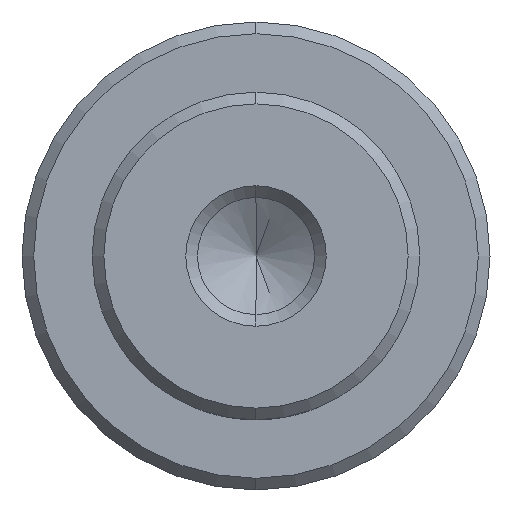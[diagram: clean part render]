
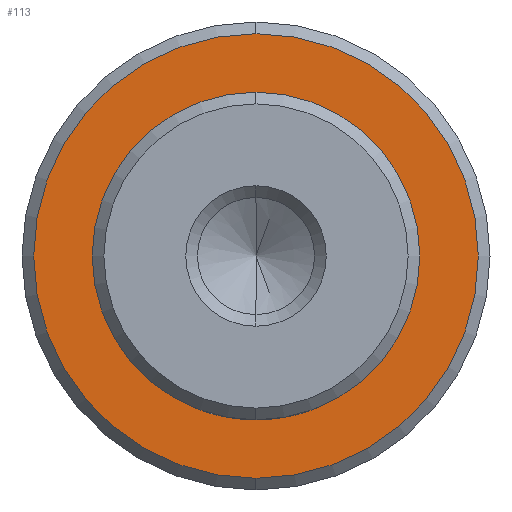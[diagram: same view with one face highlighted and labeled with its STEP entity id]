
A CAD part, left-side view. The second image highlights one B-rep face of the part: STEP entity #113.
In plain terms, the highlighted planar face has unit normal (-1, 0, 0).
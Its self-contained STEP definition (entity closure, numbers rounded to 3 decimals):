
#23 = AXIS2_PLACEMENT_3D ( 'NONE', #687, #504, #510 ) ;
#43 = DIRECTION ( 'NONE',  ( -1., 0., 0. ) ) ;
#49 = ORIENTED_EDGE ( 'NONE', *, *, #667, .F. ) ;
#88 = FACE_OUTER_BOUND ( 'NONE', #291, .T. ) ;
#98 = CARTESIAN_POINT ( 'NONE',  ( -35., 0., 0. ) ) ;
#112 = DIRECTION ( 'NONE',  ( 0., 0., 1. ) ) ;
#113 = ADVANCED_FACE ( 'NONE', ( #88, #151 ), #323, .T. ) ;
#151 = FACE_BOUND ( 'NONE', #543, .T. ) ;
#213 = CIRCLE ( 'NONE', #23, 9.5 ) ;
#218 = EDGE_CURVE ( 'NONE', #270, #673, #491, .T. ) ;
#227 = DIRECTION ( 'NONE',  ( -1., 0., 0. ) ) ;
#267 = AXIS2_PLACEMENT_3D ( 'NONE', #98, #227, #112 ) ;
#270 = VERTEX_POINT ( 'NONE', #472 ) ;
#278 = DIRECTION ( 'NONE',  ( 0., 0., 1. ) ) ;
#284 = CARTESIAN_POINT ( 'NONE',  ( -35., 0., 0. ) ) ;
#291 = EDGE_LOOP ( 'NONE', ( #373, #637 ) ) ;
#306 = CIRCLE ( 'NONE', #267, 7. ) ;
#311 = CARTESIAN_POINT ( 'NONE',  ( -35., 0., 0. ) ) ;
#323 = PLANE ( 'NONE',  #520 ) ;
#349 = CARTESIAN_POINT ( 'NONE',  ( -35., 0., 7. ) ) ;
#360 = DIRECTION ( 'NONE',  ( -1., 0., 0. ) ) ;
#370 = ORIENTED_EDGE ( 'NONE', *, *, #648, .F. ) ;
#373 = ORIENTED_EDGE ( 'NONE', *, *, #459, .T. ) ;
#459 = EDGE_CURVE ( 'NONE', #673, #270, #213, .T. ) ;
#472 = CARTESIAN_POINT ( 'NONE',  ( -35., 0., 9.5 ) ) ;
#473 = VERTEX_POINT ( 'NONE', #349 ) ;
#491 = CIRCLE ( 'NONE', #632, 9.5 ) ;
#504 = DIRECTION ( 'NONE',  ( -1., 0., 0. ) ) ;
#508 = CIRCLE ( 'NONE', #610, 7. ) ;
#510 = DIRECTION ( 'NONE',  ( 0., 0., 1. ) ) ;
#520 = AXIS2_PLACEMENT_3D ( 'NONE', #735, #43, #278 ) ;
#543 = EDGE_LOOP ( 'NONE', ( #49, #370 ) ) ;
#564 = DIRECTION ( 'NONE',  ( -1., 0., 0. ) ) ;
#598 = DIRECTION ( 'NONE',  ( 0., 0., 1. ) ) ;
#610 = AXIS2_PLACEMENT_3D ( 'NONE', #284, #564, #686 ) ;
#624 = VERTEX_POINT ( 'NONE', #665 ) ;
#632 = AXIS2_PLACEMENT_3D ( 'NONE', #311, #360, #598 ) ;
#637 = ORIENTED_EDGE ( 'NONE', *, *, #218, .T. ) ;
#648 = EDGE_CURVE ( 'NONE', #473, #624, #306, .T. ) ;
#665 = CARTESIAN_POINT ( 'NONE',  ( -35., 0., -7. ) ) ;
#667 = EDGE_CURVE ( 'NONE', #624, #473, #508, .T. ) ;
#673 = VERTEX_POINT ( 'NONE', #740 ) ;
#686 = DIRECTION ( 'NONE',  ( 0., 0., 1. ) ) ;
#687 = CARTESIAN_POINT ( 'NONE',  ( -35., 0., 0. ) ) ;
#735 = CARTESIAN_POINT ( 'NONE',  ( -35., 10., 0. ) ) ;
#740 = CARTESIAN_POINT ( 'NONE',  ( -35., 0., -9.5 ) ) ;
